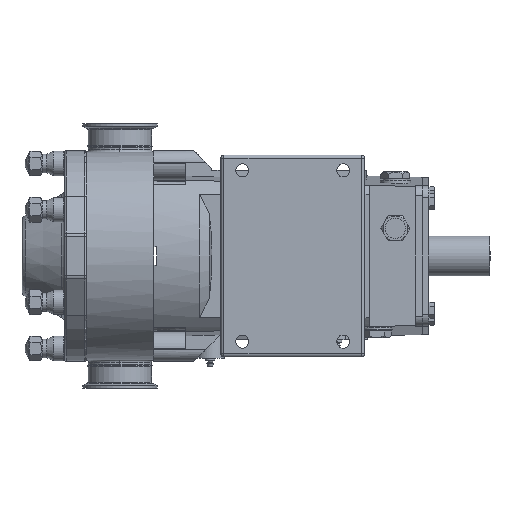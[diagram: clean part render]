
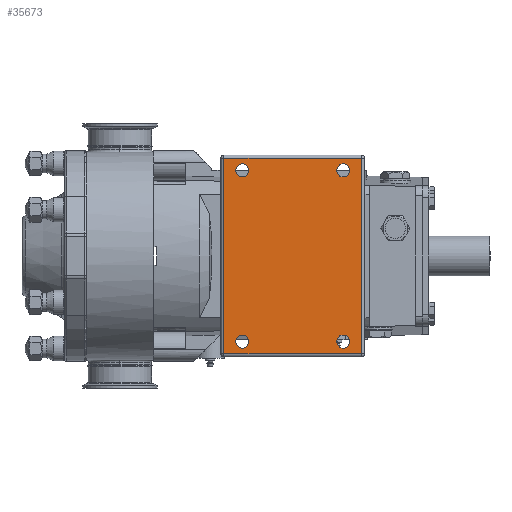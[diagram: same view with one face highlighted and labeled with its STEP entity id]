
A CAD part, front view. The second image highlights one B-rep face of the part: STEP entity #35673.
In plain terms, the highlighted planar face has unit normal (0, -1, 0).
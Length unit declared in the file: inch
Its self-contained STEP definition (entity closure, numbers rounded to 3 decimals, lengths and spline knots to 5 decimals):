
#5890 = CARTESIAN_POINT ( 'NONE',  ( 3.88565, -7.31, -3.5 ) ) ;
#8687 = CARTESIAN_POINT ( 'NONE',  ( 3.62, -7.31, -3.5 ) ) ;
#8688 = AXIS2_PLACEMENT_3D ( 'NONE', #8687, #8749, #8748 ) ;
#8689 = CIRCLE ( 'NONE', #8688, 0.26565 ) ;
#8748 = DIRECTION ( 'NONE',  ( -1., 0., 0. ) ) ;
#8749 = DIRECTION ( 'NONE',  ( 0., -1., 0. ) ) ;
#9434 = CARTESIAN_POINT ( 'NONE',  ( 8.505, -7.31, 4.005 ) ) ;
#9462 = DIRECTION ( 'NONE',  ( -1., 0., 0. ) ) ;
#9463 = DIRECTION ( 'NONE',  ( 0., -1., 0. ) ) ;
#9464 = CARTESIAN_POINT ( 'NONE',  ( 7.745, -7.31, 3.5 ) ) ;
#9465 = AXIS2_PLACEMENT_3D ( 'NONE', #9464, #9463, #9462 ) ;
#9466 = CIRCLE ( 'NONE', #9465, 0.26565 ) ;
#9494 = DIRECTION ( 'NONE',  ( -1., 0., 0. ) ) ;
#9495 = VECTOR ( 'NONE', #9494, 39.37008 ) ;
#9496 = CARTESIAN_POINT ( 'NONE',  ( 2.745, -7.31, 4.005 ) ) ;
#9497 = LINE ( 'NONE', #9496, #9495 ) ;
#9498 = CARTESIAN_POINT ( 'NONE',  ( 2.865, -7.31, 4.005 ) ) ;
#9536 = DIRECTION ( 'NONE',  ( 1., 0., 0. ) ) ;
#9537 = VECTOR ( 'NONE', #9536, 39.37008 ) ;
#9538 = CARTESIAN_POINT ( 'NONE',  ( 2.745, -7.31, -4.005 ) ) ;
#9543 = LINE ( 'NONE', #9538, #9537 ) ;
#9546 = CARTESIAN_POINT ( 'NONE',  ( 8.505, -7.31, -4.005 ) ) ;
#9547 = DIRECTION ( 'NONE',  ( -1., 0., 0. ) ) ;
#9548 = DIRECTION ( 'NONE',  ( 0., -1., 0. ) ) ;
#9549 = CARTESIAN_POINT ( 'NONE',  ( 3.62, -7.31, 3.5 ) ) ;
#9550 = AXIS2_PLACEMENT_3D ( 'NONE', #9549, #9548, #9547 ) ;
#9551 = CIRCLE ( 'NONE', #9550, 0.26565 ) ;
#9577 = CARTESIAN_POINT ( 'NONE',  ( 2.865, -7.31, -4.005 ) ) ;
#30480 = VERTEX_POINT ( 'NONE', #40205 ) ;
#30597 = EDGE_CURVE ( 'NONE', #44289, #30480, #40397, .T. ) ;
#35200 = EDGE_CURVE ( 'NONE', #35514, #35512, #42632, .T. ) ;
#35412 = EDGE_LOOP ( 'NONE', ( #35413, #35414 ) ) ;
#35413 = ORIENTED_EDGE ( 'NONE', *, *, #35560, .F. ) ;
#35414 = ORIENTED_EDGE ( 'NONE', *, *, #47980, .F. ) ;
#35415 = EDGE_LOOP ( 'NONE', ( #35416, #35418, #35419, #35421 ) ) ;
#35416 = ORIENTED_EDGE ( 'NONE', *, *, #35417, .T. ) ;
#35417 = EDGE_CURVE ( 'NONE', #47981, #47940, #43085, .T. ) ;
#35418 = ORIENTED_EDGE ( 'NONE', *, *, #47975, .T. ) ;
#35419 = ORIENTED_EDGE ( 'NONE', *, *, #35420, .T. ) ;
#35420 = EDGE_CURVE ( 'NONE', #47973, #48000, #43081, .T. ) ;
#35421 = ORIENTED_EDGE ( 'NONE', *, *, #47988, .T. ) ;
#35502 = VERTEX_POINT ( 'NONE', #43300 ) ;
#35511 = EDGE_CURVE ( 'NONE', #35512, #35514, #43269, .T. ) ;
#35512 = VERTEX_POINT ( 'NONE', #43270 ) ;
#35514 = VERTEX_POINT ( 'NONE', #43326 ) ;
#35542 = EDGE_CURVE ( 'NONE', #35543, #35502, #43351, .T. ) ;
#35543 = VERTEX_POINT ( 'NONE', #43346 ) ;
#35560 = EDGE_CURVE ( 'NONE', #35562, #35563, #43380, .T. ) ;
#35562 = VERTEX_POINT ( 'NONE', #43375 ) ;
#35563 = VERTEX_POINT ( 'NONE', #43374 ) ;
#35603 = ORIENTED_EDGE ( 'NONE', *, *, #35542, .F. ) ;
#35622 = ORIENTED_EDGE ( 'NONE', *, *, #47957, .F. ) ;
#35636 = EDGE_LOOP ( 'NONE', ( #35603, #35622 ) ) ;
#35646 = EDGE_LOOP ( 'NONE', ( #35648, #35651 ) ) ;
#35648 = ORIENTED_EDGE ( 'NONE', *, *, #30597, .F. ) ;
#35651 = ORIENTED_EDGE ( 'NONE', *, *, #47330, .F. ) ;
#35673 = ADVANCED_FACE ( 'NONE', ( #43582, #43581, #43580, #43579, #43578 ), #43577, .T. ) ;
#35675 = EDGE_LOOP ( 'NONE', ( #35745, #35712 ) ) ;
#35712 = ORIENTED_EDGE ( 'NONE', *, *, #35200, .F. ) ;
#35745 = ORIENTED_EDGE ( 'NONE', *, *, #35511, .F. ) ;
#40205 = CARTESIAN_POINT ( 'NONE',  ( 3.35435, -7.31, -3.5 ) ) ;
#40393 = DIRECTION ( 'NONE',  ( -1., 0., 0. ) ) ;
#40394 = DIRECTION ( 'NONE',  ( 0., -1., 0. ) ) ;
#40395 = CARTESIAN_POINT ( 'NONE',  ( 3.62, -7.31, -3.5 ) ) ;
#40396 = AXIS2_PLACEMENT_3D ( 'NONE', #40395, #40394, #40393 ) ;
#40397 = CIRCLE ( 'NONE', #40396, 0.26565 ) ;
#42628 = DIRECTION ( 'NONE',  ( -1., 0., 0. ) ) ;
#42629 = DIRECTION ( 'NONE',  ( 0., -1., 0. ) ) ;
#42630 = CARTESIAN_POINT ( 'NONE',  ( 7.745, -7.31, -3.5 ) ) ;
#42631 = AXIS2_PLACEMENT_3D ( 'NONE', #42630, #42629, #42628 ) ;
#42632 = CIRCLE ( 'NONE', #42631, 0.26565 ) ;
#43078 = DIRECTION ( 'NONE',  ( 0., 0., -1. ) ) ;
#43079 = VECTOR ( 'NONE', #43078, 39.37008 ) ;
#43080 = CARTESIAN_POINT ( 'NONE',  ( 2.865, -7.31, -4.125 ) ) ;
#43081 = LINE ( 'NONE', #43080, #43079 ) ;
#43082 = DIRECTION ( 'NONE',  ( 0., 0., 1. ) ) ;
#43083 = VECTOR ( 'NONE', #43082, 39.37008 ) ;
#43084 = CARTESIAN_POINT ( 'NONE',  ( 8.505, -7.31, 4.125 ) ) ;
#43085 = LINE ( 'NONE', #43084, #43083 ) ;
#43265 = DIRECTION ( 'NONE',  ( -1., 0., 0. ) ) ;
#43266 = DIRECTION ( 'NONE',  ( 0., -1., 0. ) ) ;
#43267 = CARTESIAN_POINT ( 'NONE',  ( 7.745, -7.31, -3.5 ) ) ;
#43268 = AXIS2_PLACEMENT_3D ( 'NONE', #43267, #43266, #43265 ) ;
#43269 = CIRCLE ( 'NONE', #43268, 0.26565 ) ;
#43270 = CARTESIAN_POINT ( 'NONE',  ( 8.01065, -7.31, -3.5 ) ) ;
#43300 = CARTESIAN_POINT ( 'NONE',  ( 7.47935, -7.31, 3.5 ) ) ;
#43326 = CARTESIAN_POINT ( 'NONE',  ( 7.47935, -7.31, -3.5 ) ) ;
#43346 = CARTESIAN_POINT ( 'NONE',  ( 8.01065, -7.31, 3.5 ) ) ;
#43347 = DIRECTION ( 'NONE',  ( -1., 0., 0. ) ) ;
#43348 = DIRECTION ( 'NONE',  ( 0., -1., 0. ) ) ;
#43349 = CARTESIAN_POINT ( 'NONE',  ( 7.745, -7.31, 3.5 ) ) ;
#43350 = AXIS2_PLACEMENT_3D ( 'NONE', #43349, #43348, #43347 ) ;
#43351 = CIRCLE ( 'NONE', #43350, 0.26565 ) ;
#43374 = CARTESIAN_POINT ( 'NONE',  ( 3.35435, -7.31, 3.5 ) ) ;
#43375 = CARTESIAN_POINT ( 'NONE',  ( 3.88565, -7.31, 3.5 ) ) ;
#43376 = DIRECTION ( 'NONE',  ( -1., 0., 0. ) ) ;
#43377 = DIRECTION ( 'NONE',  ( 0., -1., 0. ) ) ;
#43378 = CARTESIAN_POINT ( 'NONE',  ( 3.62, -7.31, 3.5 ) ) ;
#43379 = AXIS2_PLACEMENT_3D ( 'NONE', #43378, #43377, #43376 ) ;
#43380 = CIRCLE ( 'NONE', #43379, 0.26565 ) ;
#43573 = DIRECTION ( 'NONE',  ( -1., 0., 0. ) ) ;
#43574 = DIRECTION ( 'NONE',  ( 0., -1., 0. ) ) ;
#43575 = CARTESIAN_POINT ( 'NONE',  ( 2.745, -7.31, 4.125 ) ) ;
#43576 = AXIS2_PLACEMENT_3D ( 'NONE', #43575, #43574, #43573 ) ;
#43577 = PLANE ( 'NONE',  #43576 ) ;
#43578 = FACE_OUTER_BOUND ( 'NONE', #35415, .T. ) ;
#43579 = FACE_BOUND ( 'NONE', #35412, .T. ) ;
#43580 = FACE_BOUND ( 'NONE', #35636, .T. ) ;
#43581 = FACE_BOUND ( 'NONE', #35646, .T. ) ;
#43582 = FACE_BOUND ( 'NONE', #35675, .T. ) ;
#44289 = VERTEX_POINT ( 'NONE', #5890 ) ;
#47330 = EDGE_CURVE ( 'NONE', #30480, #44289, #8689, .T. ) ;
#47940 = VERTEX_POINT ( 'NONE', #9434 ) ;
#47957 = EDGE_CURVE ( 'NONE', #35502, #35543, #9466, .T. ) ;
#47973 = VERTEX_POINT ( 'NONE', #9498 ) ;
#47975 = EDGE_CURVE ( 'NONE', #47940, #47973, #9497, .T. ) ;
#47980 = EDGE_CURVE ( 'NONE', #35563, #35562, #9551, .T. ) ;
#47981 = VERTEX_POINT ( 'NONE', #9546 ) ;
#47988 = EDGE_CURVE ( 'NONE', #48000, #47981, #9543, .T. ) ;
#48000 = VERTEX_POINT ( 'NONE', #9577 ) ;
